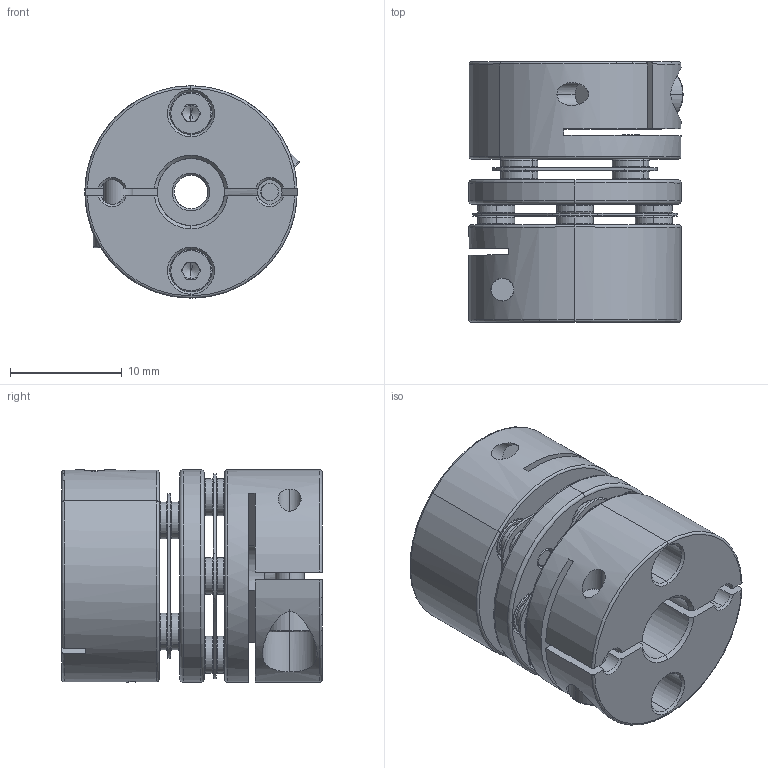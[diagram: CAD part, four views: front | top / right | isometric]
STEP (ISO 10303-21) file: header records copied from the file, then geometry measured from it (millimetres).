
FILE_DESCRIPTION (( 'STEP AP203' ), '1' );
FILE_NAME ('SDWA-19C-3X6_203.STEP', '2013-01-07T03:04:17', ( '' ), ( '' ), 'SwSTEP 2.0', 'SolidWorks 2012', '' );
FILE_SCHEMA (( 'CONFIG_CONTROL_DESIGN' ));
Length unit declared in the file: millimetre
Products named in the file (1): SDWA-19C-3X6_203
Bounding box: 19.18 x 23.3 x 19 mm (x, y, z)
Volume: 4547.2 mm3; surface area: 5075.8 mm2
Topology: 1 solids, 33 shells, 765 faces, 1778 edges, 1063 vertices
Faces by surface type: cylinder 231, plane 228, cone 168, torus 138
Entity records: 22250 total; most frequent: DIRECTION 4197, CARTESIAN_POINT 4069, ORIENTED_EDGE 3516, EDGE_CURVE 1758, AXIS2_PLACEMENT_3D 1733, VERTEX_POINT 1063, CIRCLE 967, EDGE_LOOP 875
